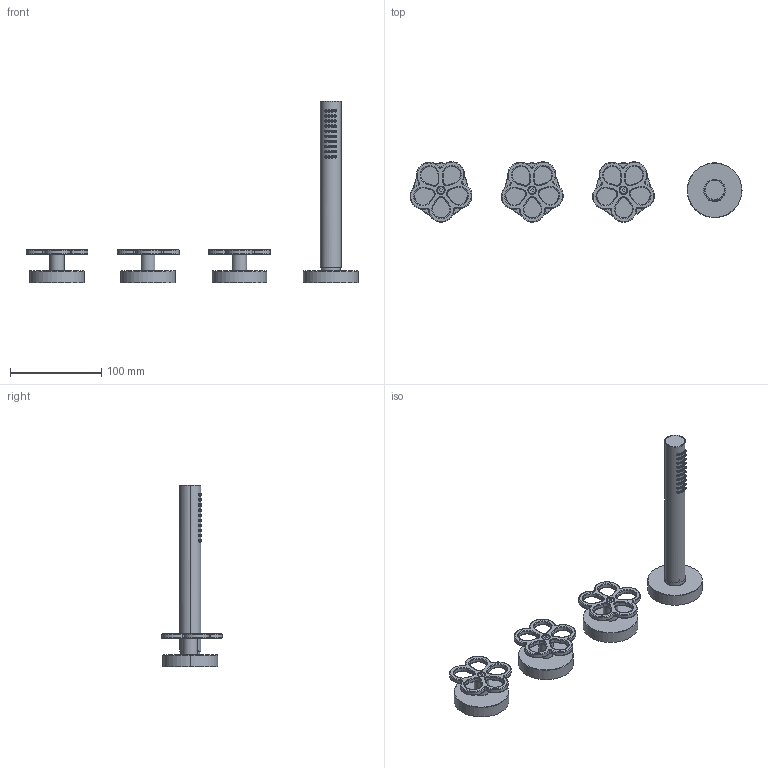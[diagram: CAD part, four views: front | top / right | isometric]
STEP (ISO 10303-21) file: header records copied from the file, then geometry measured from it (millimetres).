
FILE_DESCRIPTION(('STEP AP203'),'2;1');
FILE_NAME('DIS_3D_T467.stp','2023-03-07T08:25:02',(''),(''),'2015.2.119','THINKDESIGN','');
FILE_SCHEMA(('CONFIG_CONTROL_DESIGN'));
Length unit declared in the file: millimetre
Bounding box: 363.84 x 66.2 x 199.1 mm (x, y, z)
Volume: 188830.2 mm3; surface area: 94032.1 mm2
Topology: 15 solids, 15 shells, 996 faces, 2343 edges, 1430 vertices
Faces by surface type: bspline 543, cylinder 299, plane 154
Full cylindrical faces by diameter (mm): 16 x3
Entity records: 78076 total; most frequent: CARTESIAN_POINT 57351, ORIENTED_EDGE 4680, DIRECTION 3546, EDGE_CURVE 2340, VERTEX_POINT 1427, AXIS2_PLACEMENT_3D 1416, EDGE_LOOP 1247, FACE_OUTER_BOUND 996
